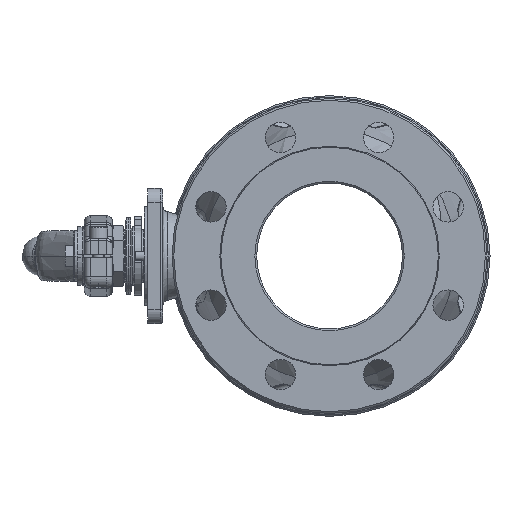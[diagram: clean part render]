
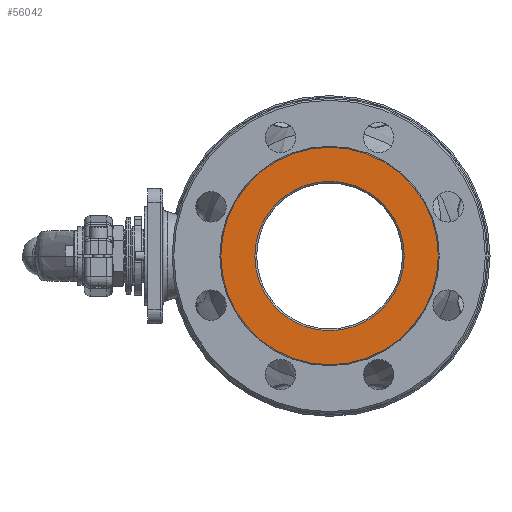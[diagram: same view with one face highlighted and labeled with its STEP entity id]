
A CAD part, left-side view. The second image highlights one B-rep face of the part: STEP entity #56042.
In plain terms, the highlighted planar face has unit normal (-1, 0, 0) as drawn and (0, -1, 0) by its records, which use the part's own axes.
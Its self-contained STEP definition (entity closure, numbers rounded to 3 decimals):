
#1064 = CARTESIAN_POINT ( 'NONE',  ( 0., -89., -11.5 ) ) ;
#1141 = EDGE_CURVE ( 'NONE', #47351, #21349, #34274, .T. ) ;
#1780 = ORIENTED_EDGE ( 'NONE', *, *, #16800, .T. ) ;
#1924 = FACE_OUTER_BOUND ( 'NONE', #61996, .T. ) ;
#2324 = CARTESIAN_POINT ( 'NONE',  ( 0., -89., -58.098 ) ) ;
#3099 = CIRCLE ( 'NONE', #20561, 93.196 ) ;
#7296 = DIRECTION ( 'NONE',  ( 0., -1., 0. ) ) ;
#7788 = DIRECTION ( 'NONE',  ( 0., 0., 1. ) ) ;
#11183 = EDGE_CURVE ( 'NONE', #21070, #16260, #32949, .T. ) ;
#11507 = CARTESIAN_POINT ( 'NONE',  ( 0., -89., -75.5 ) ) ;
#12705 = CARTESIAN_POINT ( 'NONE',  ( 0., -89., -11.5 ) ) ;
#12995 = AXIS2_PLACEMENT_3D ( 'NONE', #26017, #36063, #30922 ) ;
#16260 = VERTEX_POINT ( 'NONE', #22909 ) ;
#16541 = CARTESIAN_POINT ( 'NONE',  ( 0., -89., -11.5 ) ) ;
#16800 = EDGE_CURVE ( 'NONE', #16260, #21070, #3099, .T. ) ;
#20202 = DIRECTION ( 'NONE',  ( 0., 0., -1. ) ) ;
#20561 = AXIS2_PLACEMENT_3D ( 'NONE', #12705, #32934, #7788 ) ;
#20634 = DIRECTION ( 'NONE',  ( 0., 0., -1. ) ) ;
#21070 = VERTEX_POINT ( 'NONE', #39709 ) ;
#21349 = VERTEX_POINT ( 'NONE', #11507 ) ;
#21474 = DIRECTION ( 'NONE',  ( 0., -1., 0. ) ) ;
#22909 = CARTESIAN_POINT ( 'NONE',  ( 0., -89., -104.696 ) ) ;
#24296 = AXIS2_PLACEMENT_3D ( 'NONE', #16541, #21474, #20634 ) ;
#26017 = CARTESIAN_POINT ( 'NONE',  ( 0., -89., -11.5 ) ) ;
#30761 = ORIENTED_EDGE ( 'NONE', *, *, #1141, .F. ) ;
#30922 = DIRECTION ( 'NONE',  ( 0., 0., 1. ) ) ;
#32934 = DIRECTION ( 'NONE',  ( 0., -1., 0. ) ) ;
#32949 = CIRCLE ( 'NONE', #12995, 93.196 ) ;
#33004 = AXIS2_PLACEMENT_3D ( 'NONE', #1064, #40403, #20202 ) ;
#34274 = CIRCLE ( 'NONE', #33004, 64. ) ;
#35221 = PLANE ( 'NONE',  #41046 ) ;
#36063 = DIRECTION ( 'NONE',  ( 0., -1., 0. ) ) ;
#39709 = CARTESIAN_POINT ( 'NONE',  ( 0., -89., 81.696 ) ) ;
#40403 = DIRECTION ( 'NONE',  ( 0., -1., 0. ) ) ;
#40816 = ORIENTED_EDGE ( 'NONE', *, *, #11183, .T. ) ;
#41046 = AXIS2_PLACEMENT_3D ( 'NONE', #2324, #7296, #51173 ) ;
#42318 = ORIENTED_EDGE ( 'NONE', *, *, #59731, .F. ) ;
#44557 = EDGE_LOOP ( 'NONE', ( #42318, #30761 ) ) ;
#45203 = CARTESIAN_POINT ( 'NONE',  ( 0., -89., 52.5 ) ) ;
#47221 = CIRCLE ( 'NONE', #24296, 64. ) ;
#47351 = VERTEX_POINT ( 'NONE', #45203 ) ;
#51173 = DIRECTION ( 'NONE',  ( 0., 0., -1. ) ) ;
#54261 = FACE_BOUND ( 'NONE', #44557, .T. ) ;
#56042 = ADVANCED_FACE ( 'NONE', ( #54261, #1924 ), #35221, .T. ) ;
#59731 = EDGE_CURVE ( 'NONE', #21349, #47351, #47221, .T. ) ;
#61996 = EDGE_LOOP ( 'NONE', ( #40816, #1780 ) ) ;
